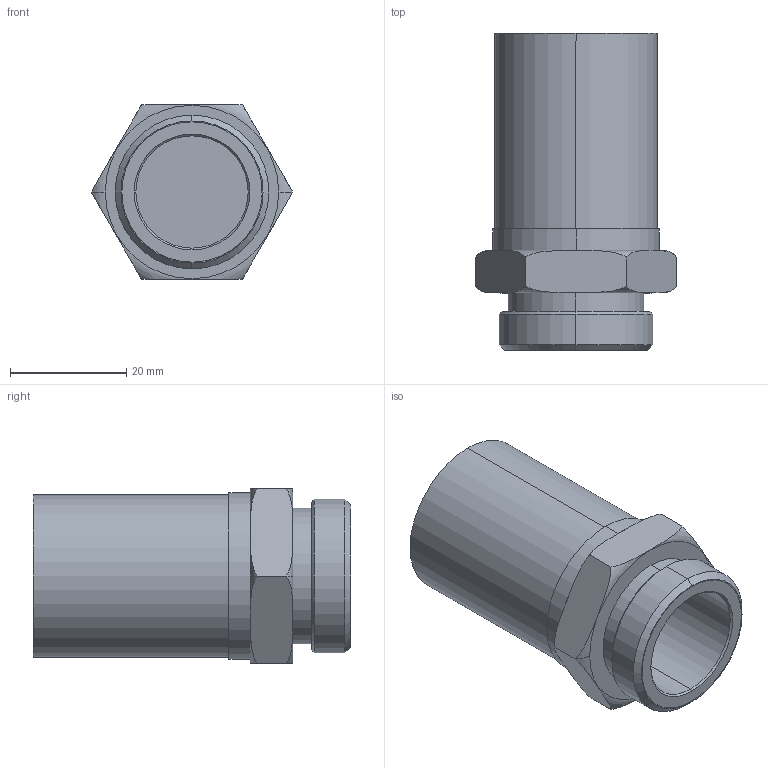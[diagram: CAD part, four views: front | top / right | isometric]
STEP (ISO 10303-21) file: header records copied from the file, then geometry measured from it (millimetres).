
FILE_DESCRIPTION((''),'2;1');
FILE_NAME('R412010085','2015-04-27T',('mla1hc'),(''),'PRO/ENGINEER BY PARAMETRIC TECHNOLOGY CORPORATION, 2011490','PRO/ENGINEER BY PARAMETRIC TECHNOLOGY CORPORATION, 2011490','');
FILE_SCHEMA(('AUTOMOTIVE_DESIGN_CC2 { 1 2 10303 214 -1 1 5 2 }'));
Length unit declared in the file: millimetre
Products named in the file (1): R412010085
Bounding box: 34.64 x 54.5 x 30 mm (x, y, z)
Volume: 18526.8 mm3; surface area: 9671.6 mm2
Topology: 1 solids, 1 shells, 35 faces, 81 edges, 55 vertices
Faces by surface type: plane 15, cylinder 10, cone 6, torus 4
Entity records: 1461 total; most frequent: CARTESIAN_POINT 639, DIRECTION 174, ORIENTED_EDGE 162, EDGE_CURVE 81, AXIS2_PLACEMENT_3D 76, VERTEX_POINT 55, EDGE_LOOP 42, CIRCLE 41
